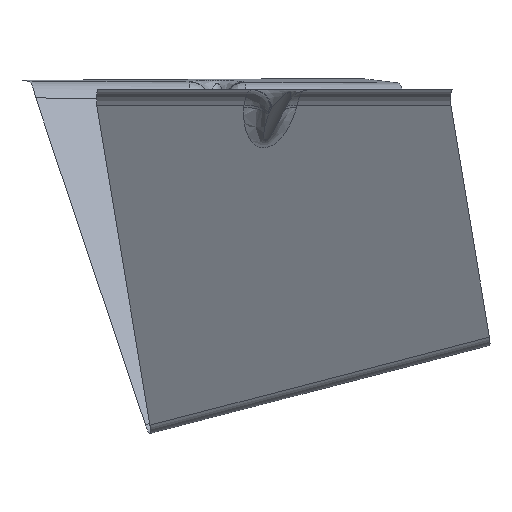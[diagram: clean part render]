
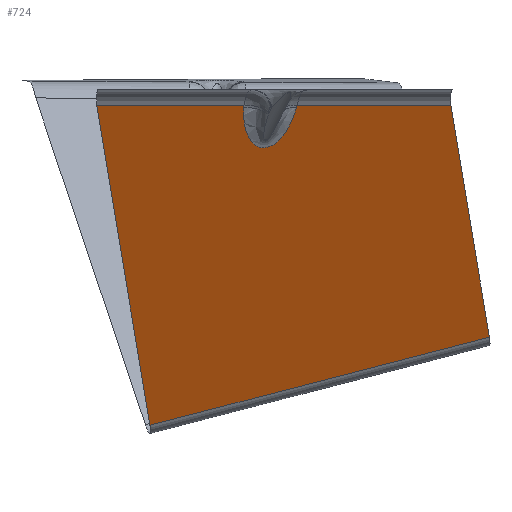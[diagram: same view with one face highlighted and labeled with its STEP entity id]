
A CAD part, left-side view. The second image highlights one B-rep face of the part: STEP entity #724.
In plain terms, the highlighted planar face has unit normal (-0.83, -0.249, -0.5).
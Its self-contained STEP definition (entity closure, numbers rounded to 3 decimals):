
#248=CARTESIAN_POINT('Vertex',(-102.067,8.767,-0.55)) ;
#271=CARTESIAN_POINT('Line Origine',(-80.546,11.295,-37.512)) ;
#275=CARTESIAN_POINT('Vertex',(-101.711,8.809,-1.162)) ;
#612=CARTESIAN_POINT('Control Point',(-97.24,-6.095,-1.162)) ;
#613=CARTESIAN_POINT('Control Point',(-96.784,-5.865,-2.032)) ;
#614=CARTESIAN_POINT('Control Point',(-96.341,-5.596,-2.901)) ;
#615=CARTESIAN_POINT('Control Point',(-95.913,-5.287,-3.765)) ;
#616=CARTESIAN_POINT('Control Point',(-95.144,-4.626,-5.371)) ;
#617=CARTESIAN_POINT('Control Point',(-94.445,-3.786,-6.948)) ;
#618=CARTESIAN_POINT('Control Point',(-94.141,-3.354,-7.668)) ;
#619=CARTESIAN_POINT('Control Point',(-93.742,-2.678,-8.665)) ;
#620=CARTESIAN_POINT('Control Point',(-93.409,-1.871,-9.62)) ;
#621=CARTESIAN_POINT('Control Point',(-93.32,-1.628,-9.889)) ;
#622=CARTESIAN_POINT('Control Point',(-93.117,-0.998,-10.539)) ;
#623=CARTESIAN_POINT('Control Point',(-92.968,-0.275,-11.145)) ;
#624=CARTESIAN_POINT('Control Point',(-92.903,0.195,-11.487)) ;
#625=CARTESIAN_POINT('Control Point',(-92.859,0.959,-11.941)) ;
#626=CARTESIAN_POINT('Control Point',(-92.929,1.83,-12.257)) ;
#627=CARTESIAN_POINT('Control Point',(-92.966,2.121,-12.341)) ;
#628=CARTESIAN_POINT('Control Point',(-93.056,2.63,-12.445)) ;
#629=CARTESIAN_POINT('Control Point',(-93.192,3.144,-12.476)) ;
#630=CARTESIAN_POINT('Control Point',(-93.255,3.354,-12.475)) ;
#631=CARTESIAN_POINT('Control Point',(-93.445,3.909,-12.438)) ;
#632=CARTESIAN_POINT('Control Point',(-93.676,4.426,-12.311)) ;
#633=CARTESIAN_POINT('Control Point',(-93.833,4.729,-12.201)) ;
#634=CARTESIAN_POINT('Control Point',(-94.286,5.502,-11.835)) ;
#635=CARTESIAN_POINT('Control Point',(-94.769,6.112,-11.336)) ;
#636=CARTESIAN_POINT('Control Point',(-95.079,6.448,-10.989)) ;
#637=CARTESIAN_POINT('Control Point',(-95.6,6.944,-10.371)) ;
#638=CARTESIAN_POINT('Control Point',(-96.116,7.34,-9.714)) ;
#639=CARTESIAN_POINT('Control Point',(-96.325,7.488,-9.44)) ;
#640=CARTESIAN_POINT('Control Point',(-96.793,7.791,-8.815)) ;
#641=CARTESIAN_POINT('Control Point',(-97.253,8.036,-8.173)) ;
#642=CARTESIAN_POINT('Control Point',(-97.507,8.157,-7.813)) ;
#643=CARTESIAN_POINT('Control Point',(-98.426,8.547,-6.481)) ;
#644=CARTESIAN_POINT('Control Point',(-99.315,8.765,-5.115)) ;
#645=CARTESIAN_POINT('Control Point',(-99.944,8.854,-4.116)) ;
#646=CARTESIAN_POINT('Control Point',(-100.674,8.888,-2.922)) ;
#647=CARTESIAN_POINT('Control Point',(-101.383,8.842,-1.722)) ;
#648=CARTESIAN_POINT('Control Point',(-101.493,8.833,-1.536)) ;
#649=CARTESIAN_POINT('Control Point',(-101.602,8.822,-1.349)) ;
#650=CARTESIAN_POINT('Control Point',(-101.711,8.809,-1.162)) ;
#651=CARTESIAN_POINT('Vertex',(-97.24,-6.095,-1.162)) ;
#669=CARTESIAN_POINT('Axis2P3D Location',(-45.119,-13.536,-83.928)) ;
#674=CARTESIAN_POINT('Line Origine',(-97.4,-6.175,-0.856)) ;
#678=CARTESIAN_POINT('Vertex',(-97.56,-6.256,-0.55)) ;
#681=CARTESIAN_POINT('Line Origine',(-108.297,29.532,-0.55)) ;
#685=CARTESIAN_POINT('Vertex',(-114.526,50.297,-0.55)) ;
#688=CARTESIAN_POINT('Line Origine',(-85.069,42.808,-45.692)) ;
#692=CARTESIAN_POINT('Vertex',(-55.612,35.319,-90.834)) ;
#695=CARTESIAN_POINT('Line Origine',(-48.731,-12.617,-78.391)) ;
#699=CARTESIAN_POINT('Vertex',(-41.851,-60.553,-65.949)) ;
#702=CARTESIAN_POINT('Line Origine',(-63.188,-55.128,-33.249)) ;
#706=CARTESIAN_POINT('Vertex',(-84.526,-49.703,-0.55)) ;
#709=CARTESIAN_POINT('Line Origine',(-91.043,-27.979,-0.55)) ;
#272=DIRECTION('Vector Direction',(0.502,0.059,-0.863)) ;
#670=DIRECTION('Axis2P3D Direction',(0.83,0.249,0.5)) ;
#671=DIRECTION('Axis2P3D XDirection',(0.541,-0.138,-0.83)) ;
#675=DIRECTION('Vector Direction',(-0.452,-0.227,0.863)) ;
#682=DIRECTION('Vector Direction',(0.287,-0.958,0.)) ;
#689=DIRECTION('Vector Direction',(0.541,-0.138,-0.83)) ;
#696=DIRECTION('Vector Direction',(0.138,-0.959,0.249)) ;
#703=DIRECTION('Vector Direction',(-0.541,0.138,0.83)) ;
#710=DIRECTION('Vector Direction',(0.287,-0.958,0.)) ;
#672=AXIS2_PLACEMENT_3D('Plane Axis2P3D',#669,#670,#671) ;
#715=ORIENTED_EDGE('',*,*,#680,.T.) ;
#716=ORIENTED_EDGE('',*,*,#653,.T.) ;
#717=ORIENTED_EDGE('',*,*,#277,.T.) ;
#718=ORIENTED_EDGE('',*,*,#687,.F.) ;
#719=ORIENTED_EDGE('',*,*,#694,.T.) ;
#720=ORIENTED_EDGE('',*,*,#701,.T.) ;
#721=ORIENTED_EDGE('',*,*,#708,.T.) ;
#722=ORIENTED_EDGE('',*,*,#713,.F.) ;
#273=VECTOR('Line Direction',#272,1.) ;
#676=VECTOR('Line Direction',#675,1.) ;
#683=VECTOR('Line Direction',#682,1.) ;
#690=VECTOR('Line Direction',#689,1.) ;
#697=VECTOR('Line Direction',#696,1.) ;
#704=VECTOR('Line Direction',#703,1.) ;
#711=VECTOR('Line Direction',#710,1.) ;
#724=ADVANCED_FACE('Extract.1',(#723),#673,.F.) ;
#611=B_SPLINE_CURVE_WITH_KNOTS('',5,(#612,#613,#614,#615,#616,#617,#618,#619,#620,#621,#622,#623,#624,#625,#626,#627,#628,#629,#630,#631,#632,#633,#634,#635,#636,#637,#638,#639,#640,#641,#642,#643,#644,#645,#646,#647,#648,#649,#650),.UNSPECIFIED.,.F.,.U.,(6,3,3,3,3,3,3,3,3,3,3,3,6),(27.675,34.369,40.162,42.482,45.883,47.497,48.626,50.522,53.903,56.247,59.173,66.977,68.414),.UNSPECIFIED.) ;
#277=EDGE_CURVE('',#276,#249,#274,.F.) ;
#653=EDGE_CURVE('',#652,#276,#611,.T.) ;
#680=EDGE_CURVE('',#679,#652,#677,.F.) ;
#687=EDGE_CURVE('',#686,#249,#684,.T.) ;
#694=EDGE_CURVE('',#686,#693,#691,.T.) ;
#701=EDGE_CURVE('',#693,#700,#698,.T.) ;
#708=EDGE_CURVE('',#700,#707,#705,.T.) ;
#713=EDGE_CURVE('',#679,#707,#712,.T.) ;
#714=EDGE_LOOP('',(#715,#716,#717,#718,#719,#720,#721,#722)) ;
#723=FACE_OUTER_BOUND('',#714,.T.) ;
#274=LINE('Line',#271,#273) ;
#677=LINE('Line',#674,#676) ;
#684=LINE('Line',#681,#683) ;
#691=LINE('Line',#688,#690) ;
#698=LINE('Line',#695,#697) ;
#705=LINE('Line',#702,#704) ;
#712=LINE('Line',#709,#711) ;
#673=PLANE('',#672) ;
#249=VERTEX_POINT('',#248) ;
#276=VERTEX_POINT('',#275) ;
#652=VERTEX_POINT('',#651) ;
#679=VERTEX_POINT('',#678) ;
#686=VERTEX_POINT('',#685) ;
#693=VERTEX_POINT('',#692) ;
#700=VERTEX_POINT('',#699) ;
#707=VERTEX_POINT('',#706) ;
